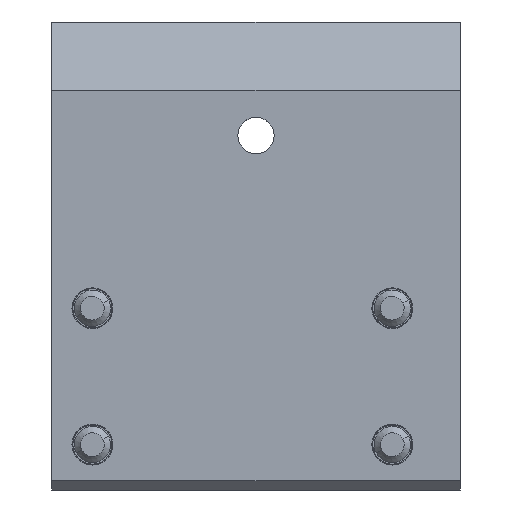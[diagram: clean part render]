
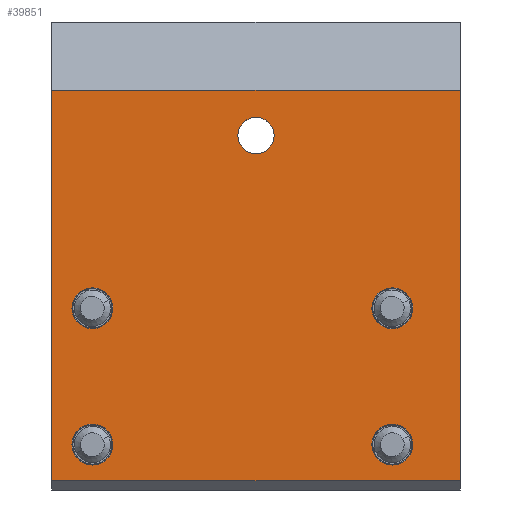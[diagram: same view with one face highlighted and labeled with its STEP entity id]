
A CAD part, front view. The second image highlights one B-rep face of the part: STEP entity #39851.
In plain terms, the highlighted planar face has unit normal (0, -1, 0).
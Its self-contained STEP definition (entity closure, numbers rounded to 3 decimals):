
#432 = CARTESIAN_POINT ( 'NONE',  ( -8.526, 4.677, -24.75 ) ) ;
#478 = CARTESIAN_POINT ( 'NONE',  ( 6.474, 4.677, -5.75 ) ) ;
#486 = EDGE_CURVE ( 'NONE', #8102, #2763, #2688, .T. ) ;
#797 = EDGE_CURVE ( 'NONE', #26119, #5191, #10035, .T. ) ;
#1196 = CARTESIAN_POINT ( 'NONE',  ( -26.526, 4.677, -23. ) ) ;
#1313 = CARTESIAN_POINT ( 'NONE',  ( -8.526, 4.677, 18.25 ) ) ;
#1758 = CARTESIAN_POINT ( 'NONE',  ( 6.474, 4.677, -18.5 ) ) ;
#1855 = CARTESIAN_POINT ( 'NONE',  ( 13.974, 4.677, -24.75 ) ) ;
#1956 = DIRECTION ( 'NONE',  ( 0., -1., 0. ) ) ;
#1980 = CARTESIAN_POINT ( 'NONE',  ( -31.026, 4.677, -24.75 ) ) ;
#2013 = PLANE ( 'NONE',  #39977 ) ;
#2097 = EDGE_CURVE ( 'NONE', #15357, #8102, #6063, .T. ) ;
#2472 = DIRECTION ( 'NONE',  ( 0., -1., 0. ) ) ;
#2476 = ORIENTED_EDGE ( 'NONE', *, *, #486, .F. ) ;
#2602 = AXIS2_PLACEMENT_3D ( 'NONE', #24022, #3506, #27502 ) ;
#2688 = LINE ( 'NONE', #18364, #38089 ) ;
#2763 = VERTEX_POINT ( 'NONE', #1855 ) ;
#3238 = DIRECTION ( 'NONE',  ( 0., -1., 0. ) ) ;
#3345 = AXIS2_PLACEMENT_3D ( 'NONE', #12023, #35965, #15482 ) ;
#3506 = DIRECTION ( 'NONE',  ( 0., -1., 0. ) ) ;
#3903 = DIRECTION ( 'NONE',  ( 0., 0., 1. ) ) ;
#3988 = EDGE_CURVE ( 'NONE', #15173, #5711, #9118, .T. ) ;
#4576 = FACE_BOUND ( 'NONE', #22727, .T. ) ;
#4836 = VERTEX_POINT ( 'NONE', #1980 ) ;
#4910 = AXIS2_PLACEMENT_3D ( 'NONE', #478, #24404, #3903 ) ;
#5191 = VERTEX_POINT ( 'NONE', #21427 ) ;
#5711 = VERTEX_POINT ( 'NONE', #35149 ) ;
#6043 = AXIS2_PLACEMENT_3D ( 'NONE', #12234, #32738, #8759 ) ;
#6063 = LINE ( 'NONE', #1313, #24257 ) ;
#7563 = LINE ( 'NONE', #15685, #15627 ) ;
#8102 = VERTEX_POINT ( 'NONE', #18426 ) ;
#8376 = ORIENTED_EDGE ( 'NONE', *, *, #42542, .T. ) ;
#8759 = DIRECTION ( 'NONE',  ( 0., 0., 1. ) ) ;
#8935 = ORIENTED_EDGE ( 'NONE', *, *, #33671, .F. ) ;
#9118 = CIRCLE ( 'NONE', #2602, 2.25 ) ;
#10022 = VERTEX_POINT ( 'NONE', #42316 ) ;
#10035 = CIRCLE ( 'NONE', #6043, 2.25 ) ;
#10548 = AXIS2_PLACEMENT_3D ( 'NONE', #35146, #14665, #38603 ) ;
#11470 = CIRCLE ( 'NONE', #24106, 2. ) ;
#12023 = CARTESIAN_POINT ( 'NONE',  ( -26.526, 4.677, -5.75 ) ) ;
#12217 = DIRECTION ( 'NONE',  ( 0., 0., -1. ) ) ;
#12234 = CARTESIAN_POINT ( 'NONE',  ( -26.526, 4.677, -5.75 ) ) ;
#12504 = CARTESIAN_POINT ( 'NONE',  ( -31.026, 4.677, -24.75 ) ) ;
#12722 = EDGE_CURVE ( 'NONE', #10022, #25393, #16961, .T. ) ;
#13774 = ORIENTED_EDGE ( 'NONE', *, *, #17514, .F. ) ;
#14347 = ORIENTED_EDGE ( 'NONE', *, *, #41886, .F. ) ;
#14665 = DIRECTION ( 'NONE',  ( 0., -1., 0. ) ) ;
#15173 = VERTEX_POINT ( 'NONE', #1196 ) ;
#15201 = VERTEX_POINT ( 'NONE', #39238 ) ;
#15357 = VERTEX_POINT ( 'NONE', #23897 ) ;
#15482 = DIRECTION ( 'NONE',  ( 0., 0., 1. ) ) ;
#15606 = CARTESIAN_POINT ( 'NONE',  ( 6.474, 4.677, -20.75 ) ) ;
#15627 = VECTOR ( 'NONE', #12217, 1000. ) ;
#15685 = CARTESIAN_POINT ( 'NONE',  ( -31.026, 4.677, 0. ) ) ;
#15952 = AXIS2_PLACEMENT_3D ( 'NONE', #22985, #2472, #26418 ) ;
#15986 = DIRECTION ( 'NONE',  ( 0., 0., 1. ) ) ;
#16519 = ORIENTED_EDGE ( 'NONE', *, *, #23069, .F. ) ;
#16961 = CIRCLE ( 'NONE', #15952, 2.25 ) ;
#17193 = EDGE_CURVE ( 'NONE', #5711, #15173, #23923, .T. ) ;
#17482 = DIRECTION ( 'NONE',  ( 0., 0., -1. ) ) ;
#17514 = EDGE_CURVE ( 'NONE', #2763, #4836, #23931, .T. ) ;
#18364 = CARTESIAN_POINT ( 'NONE',  ( 13.974, 4.677, -3.25 ) ) ;
#18426 = CARTESIAN_POINT ( 'NONE',  ( 13.974, 4.677, 18.25 ) ) ;
#18938 = CIRCLE ( 'NONE', #4910, 2.25 ) ;
#19057 = DIRECTION ( 'NONE',  ( 0., 0., 1. ) ) ;
#19172 = ORIENTED_EDGE ( 'NONE', *, *, #3988, .F. ) ;
#19345 = CIRCLE ( 'NONE', #40739, 2.25 ) ;
#19537 = EDGE_CURVE ( 'NONE', #28350, #33908, #11470, .T. ) ;
#19617 = DIRECTION ( 'NONE',  ( 0., -1., 0. ) ) ;
#21114 = AXIS2_PLACEMENT_3D ( 'NONE', #22458, #1956, #25871 ) ;
#21427 = CARTESIAN_POINT ( 'NONE',  ( -26.526, 4.677, -3.5 ) ) ;
#21721 = FACE_BOUND ( 'NONE', #22660, .T. ) ;
#22458 = CARTESIAN_POINT ( 'NONE',  ( -26.526, 4.677, -20.75 ) ) ;
#22660 = EDGE_LOOP ( 'NONE', ( #16519, #40594 ) ) ;
#22727 = EDGE_LOOP ( 'NONE', ( #30390, #37385 ) ) ;
#22985 = CARTESIAN_POINT ( 'NONE',  ( 6.474, 4.677, -20.75 ) ) ;
#23069 = EDGE_CURVE ( 'NONE', #25393, #10022, #19345, .T. ) ;
#23607 = CIRCLE ( 'NONE', #10548, 2. ) ;
#23732 = CIRCLE ( 'NONE', #3345, 2.25 ) ;
#23735 = CARTESIAN_POINT ( 'NONE',  ( 6.474, 4.677, -5.75 ) ) ;
#23897 = CARTESIAN_POINT ( 'NONE',  ( -31.026, 4.677, 18.25 ) ) ;
#23923 = CIRCLE ( 'NONE', #21114, 2.25 ) ;
#23931 = LINE ( 'NONE', #432, #27180 ) ;
#23935 = CIRCLE ( 'NONE', #32000, 2.25 ) ;
#24022 = CARTESIAN_POINT ( 'NONE',  ( -26.526, 4.677, -20.75 ) ) ;
#24106 = AXIS2_PLACEMENT_3D ( 'NONE', #40098, #19617, #43577 ) ;
#24110 = CARTESIAN_POINT ( 'NONE',  ( 6.474, 4.677, -3.5 ) ) ;
#24257 = VECTOR ( 'NONE', #25233, 1000. ) ;
#24268 = VERTEX_POINT ( 'NONE', #24110 ) ;
#24361 = DIRECTION ( 'NONE',  ( -1., 0., 0. ) ) ;
#24404 = DIRECTION ( 'NONE',  ( 0., -1., 0. ) ) ;
#25233 = DIRECTION ( 'NONE',  ( 1., 0., 0. ) ) ;
#25393 = VERTEX_POINT ( 'NONE', #1758 ) ;
#25548 = EDGE_CURVE ( 'NONE', #15201, #24268, #23935, .T. ) ;
#25651 = CARTESIAN_POINT ( 'NONE',  ( -8.526, 4.677, 11.25 ) ) ;
#25871 = DIRECTION ( 'NONE',  ( 0., 0., 1. ) ) ;
#25971 = FACE_BOUND ( 'NONE', #26487, .T. ) ;
#26119 = VERTEX_POINT ( 'NONE', #40801 ) ;
#26418 = DIRECTION ( 'NONE',  ( 0., 0., 1. ) ) ;
#26487 = EDGE_LOOP ( 'NONE', ( #14347, #39499 ) ) ;
#27180 = VECTOR ( 'NONE', #24361, 1000. ) ;
#27202 = DIRECTION ( 'NONE',  ( 0., 0., 1. ) ) ;
#27502 = DIRECTION ( 'NONE',  ( 0., 0., 1. ) ) ;
#28254 = ORIENTED_EDGE ( 'NONE', *, *, #17193, .F. ) ;
#28350 = VERTEX_POINT ( 'NONE', #25651 ) ;
#30390 = ORIENTED_EDGE ( 'NONE', *, *, #31830, .F. ) ;
#30827 = FACE_OUTER_BOUND ( 'NONE', #43155, .T. ) ;
#31830 = EDGE_CURVE ( 'NONE', #24268, #15201, #18938, .T. ) ;
#32000 = AXIS2_PLACEMENT_3D ( 'NONE', #23735, #3238, #27202 ) ;
#32738 = DIRECTION ( 'NONE',  ( 0., -1., 0. ) ) ;
#33061 = ORIENTED_EDGE ( 'NONE', *, *, #19537, .F. ) ;
#33262 = EDGE_LOOP ( 'NONE', ( #28254, #19172 ) ) ;
#33671 = EDGE_CURVE ( 'NONE', #33908, #28350, #23607, .T. ) ;
#33908 = VERTEX_POINT ( 'NONE', #40556 ) ;
#34741 = EDGE_LOOP ( 'NONE', ( #8935, #33061 ) ) ;
#35146 = CARTESIAN_POINT ( 'NONE',  ( -8.526, 4.677, 13.25 ) ) ;
#35149 = CARTESIAN_POINT ( 'NONE',  ( -26.526, 4.677, -18.5 ) ) ;
#35965 = DIRECTION ( 'NONE',  ( 0., -1., 0. ) ) ;
#36457 = DIRECTION ( 'NONE',  ( 0., 1., 0. ) ) ;
#37385 = ORIENTED_EDGE ( 'NONE', *, *, #25548, .F. ) ;
#37889 = ORIENTED_EDGE ( 'NONE', *, *, #2097, .F. ) ;
#38089 = VECTOR ( 'NONE', #17482, 1000. ) ;
#38603 = DIRECTION ( 'NONE',  ( 0., 0., 1. ) ) ;
#38868 = FACE_BOUND ( 'NONE', #33262, .T. ) ;
#39238 = CARTESIAN_POINT ( 'NONE',  ( 6.474, 4.677, -8. ) ) ;
#39499 = ORIENTED_EDGE ( 'NONE', *, *, #797, .F. ) ;
#39535 = DIRECTION ( 'NONE',  ( 0., -1., 0. ) ) ;
#39851 = ADVANCED_FACE ( 'NONE', ( #25971, #4576, #21721, #38868, #39950, #30827 ), #2013, .F. ) ;
#39950 = FACE_BOUND ( 'NONE', #34741, .T. ) ;
#39977 = AXIS2_PLACEMENT_3D ( 'NONE', #12504, #36457, #15986 ) ;
#40098 = CARTESIAN_POINT ( 'NONE',  ( -8.526, 4.677, 13.25 ) ) ;
#40556 = CARTESIAN_POINT ( 'NONE',  ( -8.526, 4.677, 15.25 ) ) ;
#40594 = ORIENTED_EDGE ( 'NONE', *, *, #12722, .F. ) ;
#40739 = AXIS2_PLACEMENT_3D ( 'NONE', #15606, #39535, #19057 ) ;
#40801 = CARTESIAN_POINT ( 'NONE',  ( -26.526, 4.677, -8. ) ) ;
#41886 = EDGE_CURVE ( 'NONE', #5191, #26119, #23732, .T. ) ;
#42316 = CARTESIAN_POINT ( 'NONE',  ( 6.474, 4.677, -23. ) ) ;
#42542 = EDGE_CURVE ( 'NONE', #15357, #4836, #7563, .T. ) ;
#43155 = EDGE_LOOP ( 'NONE', ( #13774, #2476, #37889, #8376 ) ) ;
#43577 = DIRECTION ( 'NONE',  ( 0., 0., 1. ) ) ;
